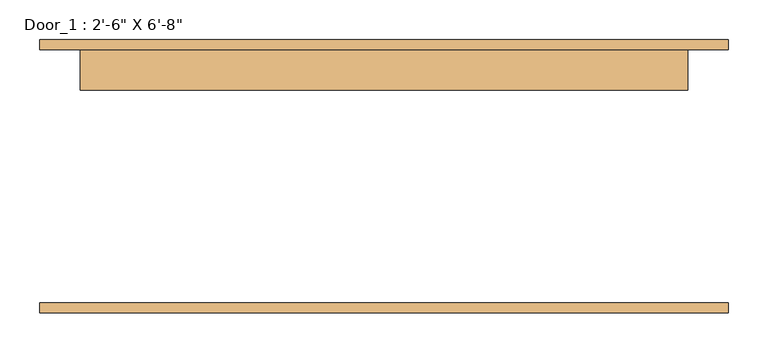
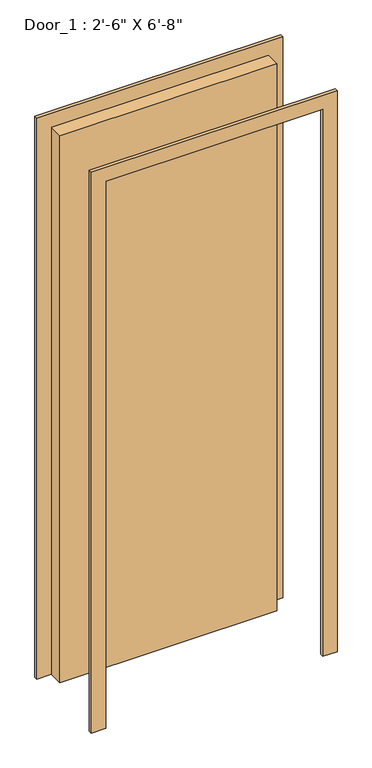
"""IFC4 building model written with IfcOpenShell, lengths in millimetres: door geometry."""

from ifc_helpers import new_model, si_unit, frame, origin, origin_with_axes, place, context, project, spatial, polyline, outline, extrude, source, transform, mapped, element, save


def door_2c57831a(model_context):
    return source(origin(), model_context, "Body", "SweptSolid", [
        extrude(outline(polyline([(2082.8, -431.8), (0.0, -431.8), (0.0, -381.0), (2032.0, -381.0), (2032.0, 381.0), (0.0, 381.0), (0.0, 431.8), (2082.8, 431.8), (2082.8, -431.8)])), frame((0.0, 158.75, 0.0), z_axis=(0.0, 1.0, 0.0), x_axis=(0.0, 0.0, 1.0)), (0.0, 0.0, 1.0), 12.7),
        extrude(outline(polyline([(2082.8, 431.8), (2082.8, -431.8), (0.0, -431.8), (0.0, -381.0), (2032.0, -381.0), (2032.0, 381.0), (0.0, 381.0), (0.0, 431.8), (2082.8, 431.8)])), frame((0.0, -171.45, 0.0), z_axis=(0.0, 1.0, 0.0), x_axis=(0.0, 0.0, 1.0)), (0.0, 0.0, 1.0), 12.7),
        extrude(outline(polyline([(381.0, 107.95), (-381.0, 107.95), (-381.0, 158.75), (381.0, 158.75), (381.0, 107.95)])), origin_with_axes(), (0.0, 0.0, 1.0), 2032.0),
    ])


if __name__ == "__main__":
    model = new_model("IFC4")
    model_context = context("Model", 3, world=origin())
    ifc_project = project(units=[si_unit("LENGTHUNIT", "METRE", prefix="MILLI")], contexts=[model_context])
    site = spatial("IfcSite", under=ifc_project)
    building = spatial("IfcBuilding", under=site)
    placement = place(None, origin())
    door_shape = door_2c57831a(model_context)
    element("IfcDoor", 1, ObjectType="Door_1 : 2'-6\" X 6'-8\"", at=placement, inside=building, context=model_context, shape_type="MappedRepresentation", body=[
        mapped(door_shape, transform((0.0, 0.0, 0.0), x_axis=(1.0, 0.0, 0.0), y_axis=(0.0, 1.0, 0.0), z_axis=(0.0, 0.0, 1.0))),
    ])
    save(model, "model.ifc")
